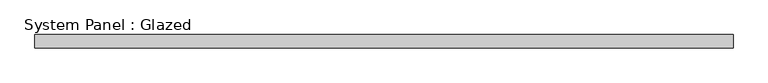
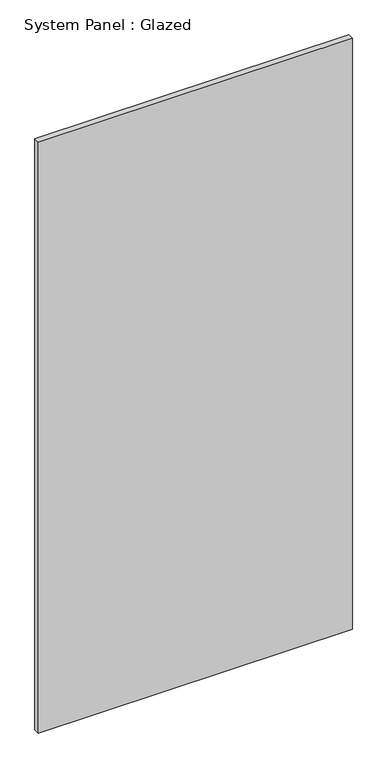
"""IFC4 building model written with IfcOpenShell, lengths in millimetres: plate geometry, System Panel : Glazed."""

from ifc_helpers import new_model, si_unit, origin, origin_with_axes, place, context, project, spatial, polyline, outline, extrude, source, transform, mapped, element, save


def system_panel_glazed_2d737e80(model_context):
    return source(origin(), model_context, "Body", "SweptSolid", [
        extrude(outline(polyline([(672.3750001, 19.05), (-672.3750001, 19.05), (-672.3750001, 44.45), (672.3750001, 44.45), (672.3750001, 19.05)])), origin_with_axes(), (0.0, 0.0, 1.0), 2673.0),
    ])


if __name__ == "__main__":
    model = new_model("IFC4")
    model_context = context("Model", 3, world=origin())
    ifc_project = project(units=[si_unit("LENGTHUNIT", "METRE", prefix="MILLI")], contexts=[model_context])
    site = spatial("IfcSite", under=ifc_project)
    building = spatial("IfcBuilding", under=site)
    placement = place(None, origin())
    system_panel_glazed_shape = system_panel_glazed_2d737e80(model_context)
    element("IfcPlate", 1, ObjectType="System Panel : Glazed", at=placement, inside=building, context=model_context, shape_type="MappedRepresentation", body=[
        mapped(system_panel_glazed_shape, transform((0.0, 0.0, 0.0), x_axis=(1.0, 0.0, 0.0), y_axis=(0.0, 1.0, 0.0), z_axis=(0.0, 0.0, 1.0))),
    ])
    save(model, "model.ifc")
